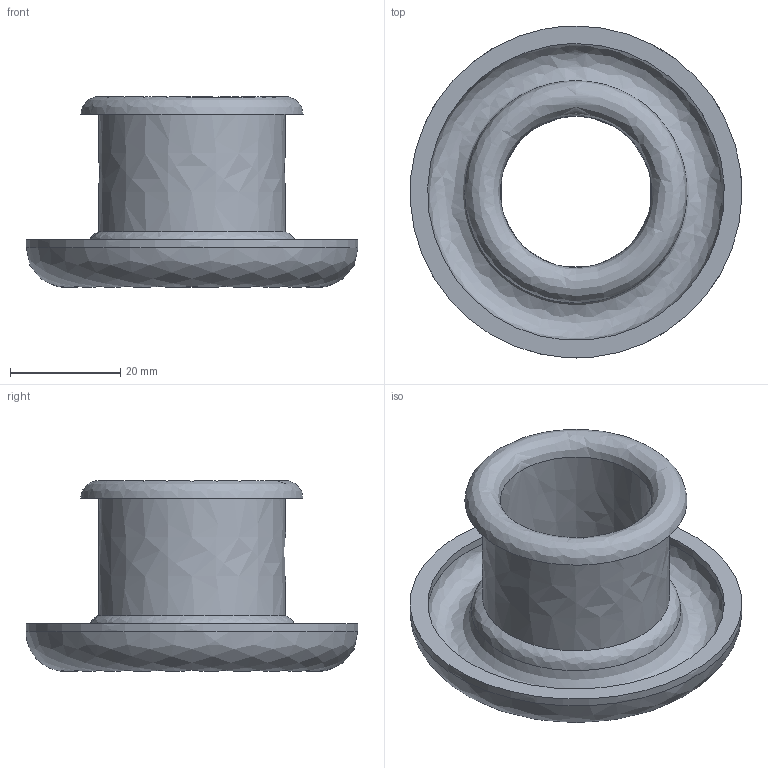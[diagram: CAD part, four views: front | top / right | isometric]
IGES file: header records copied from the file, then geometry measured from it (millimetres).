
Start section: JAMA-IS VERSION  1.0
Global section: file name: E:\tools-models\その他メーカー2\INOAC車輪\7月\HP-100WJ\HP-100WJ-13.igs; native system: CAM-TOOL; preprocessor: C3out Version 11.1.1.50212 (2015/02/12); author: NONE; organization: NONE; date: 200704.164905; units: millimetre
Bounding box: 60.34 x 60.34 x 34.66 mm (x, y, z)
Surface area: 12536.7 mm2 (no closed solid volume)
Topology: 0 solids, 0 shells, 11 faces, 44 edges, 44 vertices
Faces by surface type: bspline 11
